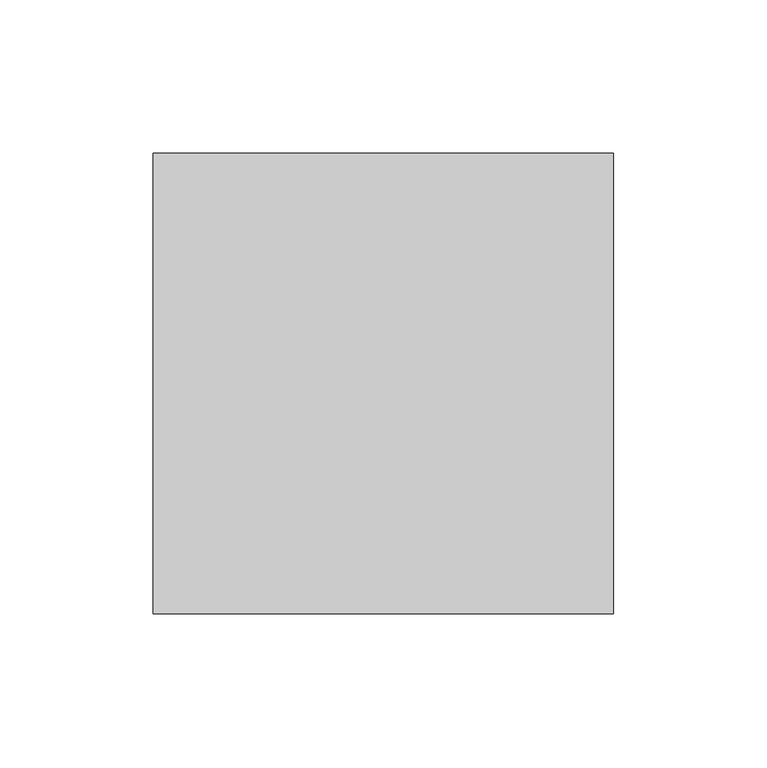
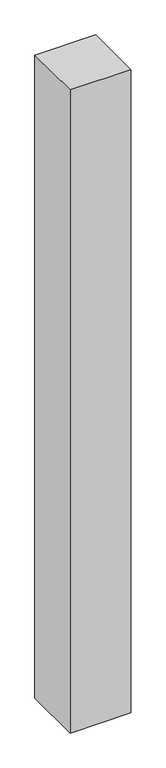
"""IFC4 building model written with IfcOpenShell, lengths in millimetres: member geometry, Угловой L-импост : Угловой L-импост."""

from ifc_helpers import new_model, si_unit, frame, origin, place, context, project, spatial, polyline, outline, extrude, source, transform, mapped, element, save


def member_f3f06515(model_context):
    return source(origin(), model_context, "Body", "SweptSolid", [
        extrude(outline(polyline([(75.0, 75.0), (75.0, -75.0), (-75.0, -75.0), (-75.0, 75.0), (75.0, 75.0)])), frame((0.0, 0.0, -1675.0), z_axis=(0.0, 0.0, 1.0), x_axis=(1.0, 0.0, 0.0)), (0.0, 0.0, 1.0), 1675.0),
    ])


if __name__ == "__main__":
    model = new_model("IFC4")
    model_context = context("Model", 3, world=origin())
    ifc_project = project(units=[si_unit("LENGTHUNIT", "METRE", prefix="MILLI")], contexts=[model_context])
    site = spatial("IfcSite", under=ifc_project)
    building = spatial("IfcBuilding", under=site)
    placement = place(None, origin())
    member_shape = member_f3f06515(model_context)
    element("IfcMember", 1, ObjectType="Угловой L-импост : Угловой L-импост", at=placement, inside=building, context=model_context, shape_type="MappedRepresentation", body=[
        mapped(member_shape, transform((0.0, 0.0, 0.0), x_axis=(1.0, 0.0, 0.0), y_axis=(0.0, 1.0, 0.0), z_axis=(0.0, 0.0, 1.0))),
    ])
    save(model, "model.ifc")
